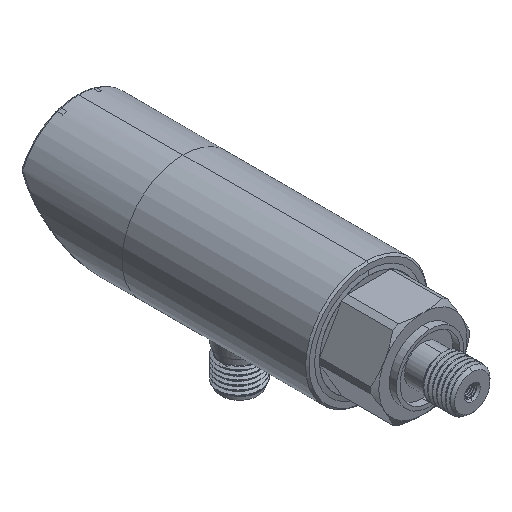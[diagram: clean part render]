
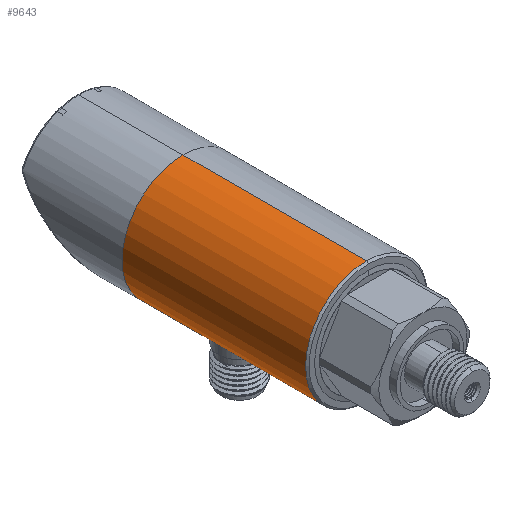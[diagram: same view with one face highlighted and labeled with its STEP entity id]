
A CAD part, isometric view. The second image highlights one B-rep face of the part: STEP entity #9643.
In plain terms, the highlighted cylindrical face has radius 17.25 mm (diameter 34.5 mm), a partial arc.
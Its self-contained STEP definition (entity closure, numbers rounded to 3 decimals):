
#7 = CARTESIAN_POINT ( 'NONE',  ( -6., 36., -16.173 ) ) ;
#118 = DIRECTION ( 'NONE',  ( 0., 1., 0. ) ) ;
#190 = EDGE_CURVE ( 'NONE', #5930, #13009, #546, .T. ) ;
#220 = LINE ( 'NONE', #4304, #578 ) ;
#546 = CIRCLE ( 'NONE', #8232, 17.25 ) ;
#578 = VECTOR ( 'NONE', #12077, 1000. ) ;
#661 = EDGE_CURVE ( 'NONE', #6464, #6730, #5373, .T. ) ;
#760 = CARTESIAN_POINT ( 'NONE',  ( -4.52, 39.965, -16.65 ) ) ;
#834 = CARTESIAN_POINT ( 'NONE',  ( -3.965, 40.508, -16.789 ) ) ;
#913 = CARTESIAN_POINT ( 'NONE',  ( -3.504, 40.875, -16.891 ) ) ;
#926 = ORIENTED_EDGE ( 'NONE', *, *, #3051, .T. ) ;
#983 = EDGE_CURVE ( 'NONE', #11012, #5950, #13439, .T. ) ;
#999 = CARTESIAN_POINT ( 'NONE',  ( -5.2, 32.982, -16.449 ) ) ;
#1287 = CARTESIAN_POINT ( 'NONE',  ( -6., 36., -16.173 ) ) ;
#1442 = CARTESIAN_POINT ( 'NONE',  ( 0., 42., -17.25 ) ) ;
#1482 = ORIENTED_EDGE ( 'NONE', *, *, #661, .T. ) ;
#1697 = EDGE_CURVE ( 'NONE', #6730, #11939, #7635, .T. ) ;
#1827 = CARTESIAN_POINT ( 'NONE',  ( -0.4, 42., -17.25 ) ) ;
#1965 = CARTESIAN_POINT ( 'NONE',  ( 0., 42., -17.25 ) ) ;
#2002 = DIRECTION ( 'NONE',  ( 0., 0., -1. ) ) ;
#2198 = CARTESIAN_POINT ( 'NONE',  ( -4.759, 32.341, -16.581 ) ) ;
#2953 = CARTESIAN_POINT ( 'NONE',  ( -6., 36., -16.173 ) ) ;
#3051 = EDGE_CURVE ( 'NONE', #5950, #6464, #10859, .T. ) ;
#3208 = DIRECTION ( 'NONE',  ( 0., -1., 0. ) ) ;
#3257 = CARTESIAN_POINT ( 'NONE',  ( -0.197, 30., -17.25 ) ) ;
#3300 = CARTESIAN_POINT ( 'NONE',  ( 0., 52., 0. ) ) ;
#3309 = LINE ( 'NONE', #8686, #6066 ) ;
#3327 = CARTESIAN_POINT ( 'NONE',  ( -3.664, 31.233, -16.86 ) ) ;
#3749 = CARTESIAN_POINT ( 'NONE',  ( 0., 52., -17.25 ) ) ;
#3925 = CARTESIAN_POINT ( 'NONE',  ( -5.796, 37.563, -16.247 ) ) ;
#3928 = CARTESIAN_POINT ( 'NONE',  ( 0., 0., 17.25 ) ) ;
#3997 = CARTESIAN_POINT ( 'NONE',  ( -1.941, 41.681, -17.141 ) ) ;
#4294 = CARTESIAN_POINT ( 'NONE',  ( -5.96, 35.204, -16.188 ) ) ;
#4304 = CARTESIAN_POINT ( 'NONE',  ( 0., 52., 17.25 ) ) ;
#4437 = CARTESIAN_POINT ( 'NONE',  ( -2.665, 30.61, -17.047 ) ) ;
#5057 = CARTESIAN_POINT ( 'NONE',  ( -5.615, 38.125, -16.311 ) ) ;
#5080 = AXIS2_PLACEMENT_3D ( 'NONE', #6519, #3208, #2002 ) ;
#5131 = CARTESIAN_POINT ( 'NONE',  ( -5.206, 39.009, -16.447 ) ) ;
#5203 = CARTESIAN_POINT ( 'NONE',  ( -3.662, 40.757, -16.857 ) ) ;
#5289 = CARTESIAN_POINT ( 'NONE',  ( -1.943, 30.31, -17.144 ) ) ;
#5373 = LINE ( 'NONE', #9740, #9071 ) ;
#5508 = DIRECTION ( 'NONE',  ( 0., -1., 0. ) ) ;
#5580 = ORIENTED_EDGE ( 'NONE', *, *, #12956, .T. ) ;
#5930 = VERTEX_POINT ( 'NONE', #3749 ) ;
#5950 = VERTEX_POINT ( 'NONE', #1287 ) ;
#6066 = VECTOR ( 'NONE', #12578, 1000. ) ;
#6183 = EDGE_LOOP ( 'NONE', ( #7954, #6825, #5580, #7673, #926, #1482, #12423 ) ) ;
#6283 = CARTESIAN_POINT ( 'NONE',  ( -5.39, 38.665, -16.387 ) ) ;
#6464 = VERTEX_POINT ( 'NONE', #13405 ) ;
#6507 = CARTESIAN_POINT ( 'NONE',  ( 0., 30., -17.25 ) ) ;
#6519 = CARTESIAN_POINT ( 'NONE',  ( 0., 52., 0. ) ) ;
#6571 = CARTESIAN_POINT ( 'NONE',  ( -0.985, 30.078, -17.223 ) ) ;
#6730 = VERTEX_POINT ( 'NONE', #8313 ) ;
#6825 = ORIENTED_EDGE ( 'NONE', *, *, #190, .F. ) ;
#7209 = CARTESIAN_POINT ( 'NONE',  ( -5.845, 37.369, -16.23 ) ) ;
#7444 = CARTESIAN_POINT ( 'NONE',  ( -3.964, 31.479, -16.791 ) ) ;
#7495 = CARTESIAN_POINT ( 'NONE',  ( -0.793, 41.96, -17.236 ) ) ;
#7577 = CARTESIAN_POINT ( 'NONE',  ( -0.394, 30.01, -17.247 ) ) ;
#7635 = CIRCLE ( 'NONE', #8303, 17.25 ) ;
#7653 = CARTESIAN_POINT ( 'NONE',  ( -5.69, 34.057, -16.285 ) ) ;
#7673 = ORIENTED_EDGE ( 'NONE', *, *, #983, .T. ) ;
#7688 = CARTESIAN_POINT ( 'NONE',  ( 0., 0., 0. ) ) ;
#7750 = DIRECTION ( 'NONE',  ( 0., 1., 0. ) ) ;
#7954 = ORIENTED_EDGE ( 'NONE', *, *, #8836, .F. ) ;
#8232 = AXIS2_PLACEMENT_3D ( 'NONE', #3300, #118, #14037 ) ;
#8303 = AXIS2_PLACEMENT_3D ( 'NONE', #7688, #7750, #14030 ) ;
#8313 = CARTESIAN_POINT ( 'NONE',  ( 0., 0., -17.25 ) ) ;
#8340 = CARTESIAN_POINT ( 'NONE',  ( -4.767, 39.664, -16.58 ) ) ;
#8544 = CARTESIAN_POINT ( 'NONE',  ( -1.562, 41.796, -17.18 ) ) ;
#8640 = CARTESIAN_POINT ( 'NONE',  ( -5.805, 34.432, -16.244 ) ) ;
#8686 = CARTESIAN_POINT ( 'NONE',  ( 0., 52., -17.25 ) ) ;
#8703 = CARTESIAN_POINT ( 'NONE',  ( -1.569, 30.195, -17.183 ) ) ;
#8836 = EDGE_CURVE ( 'NONE', #13009, #11939, #220, .T. ) ;
#8852 = CARTESIAN_POINT ( 'NONE',  ( -0.787, 30.049, -17.233 ) ) ;
#9071 = VECTOR ( 'NONE', #5508, 1000. ) ;
#9489 = CARTESIAN_POINT ( 'NONE',  ( -2.673, 41.386, -17.046 ) ) ;
#9643 = ADVANCED_FACE ( 'NONE', ( #9670 ), #11944, .T. ) ;
#9670 = FACE_OUTER_BOUND ( 'NONE', #6183, .T. ) ;
#9740 = CARTESIAN_POINT ( 'NONE',  ( 0., 52., -17.25 ) ) ;
#10480 = CARTESIAN_POINT ( 'NONE',  ( -1.371, 41.845, -17.197 ) ) ;
#10700 = CARTESIAN_POINT ( 'NONE',  ( -4.109, 40.377, -16.754 ) ) ;
#10791 = CARTESIAN_POINT ( 'NONE',  ( -5.386, 33.327, -16.388 ) ) ;
#10850 = CARTESIAN_POINT ( 'NONE',  ( -4.875, 32.497, -16.547 ) ) ;
#10859 = B_SPLINE_CURVE_WITH_KNOTS ( 'NONE', 3,
 ( #7, #13993, #4294, #8640, #7653, #10791, #999, #10850, #2198, #12990, #13134, #7444, #3327, #11933, #4437, #5289, #8703, #6571, #8852, #7577, #3257, #6507 ),
 .UNSPECIFIED., .F., .F.,
 ( 4, 2, 2, 2, 2, 2, 2, 2, 2, 2, 4 ),
 ( 0.009, 0.011, 0.012, 0.013, 0.014, 0.014, 0.015, 0.017, 0.018, 0.018, 0.019 ),
 .UNSPECIFIED. ) ;
#11012 = VERTEX_POINT ( 'NONE', #1442 ) ;
#11835 = CARTESIAN_POINT ( 'NONE',  ( 0., 52., 17.25 ) ) ;
#11933 = CARTESIAN_POINT ( 'NONE',  ( -3.016, 30.799, -16.987 ) ) ;
#11939 = VERTEX_POINT ( 'NONE', #3928 ) ;
#11944 = CYLINDRICAL_SURFACE ( 'NONE', #5080, 17.25 ) ;
#12077 = DIRECTION ( 'NONE',  ( 0., -1., 0. ) ) ;
#12423 = ORIENTED_EDGE ( 'NONE', *, *, #1697, .T. ) ;
#12578 = DIRECTION ( 'NONE',  ( 0., -1., 0. ) ) ;
#12631 = CARTESIAN_POINT ( 'NONE',  ( -3.016, 41.201, -16.987 ) ) ;
#12700 = CARTESIAN_POINT ( 'NONE',  ( -6., 36.395, -16.173 ) ) ;
#12763 = CARTESIAN_POINT ( 'NONE',  ( -2.128, 41.613, -17.119 ) ) ;
#12956 = EDGE_CURVE ( 'NONE', #5930, #11012, #3309, .T. ) ;
#12990 = CARTESIAN_POINT ( 'NONE',  ( -4.51, 32.038, -16.65 ) ) ;
#13009 = VERTEX_POINT ( 'NONE', #11835 ) ;
#13134 = CARTESIAN_POINT ( 'NONE',  ( -4.378, 31.892, -16.686 ) ) ;
#13405 = CARTESIAN_POINT ( 'NONE',  ( 0., 30., -17.25 ) ) ;
#13439 = B_SPLINE_CURVE_WITH_KNOTS ( 'NONE', 3,
 ( #1965, #1827, #7495, #10480, #8544, #3997, #12763, #9489, #12631, #913, #5203, #834, #10700, #760, #8340, #5131, #6283, #5057, #13760, #3925, #7209, #13833, #12700, #2953 ),
 .UNSPECIFIED., .F., .F.,
 ( 4, 2, 2, 2, 2, 2, 2, 2, 2, 2, 2, 4 ),
 ( 0., 0.001, 0.002, 0.002, 0.004, 0.004, 0.005, 0.006, 0.007, 0.008, 0.008, 0.009 ),
 .UNSPECIFIED. ) ;
#13760 = CARTESIAN_POINT ( 'NONE',  ( -5.681, 37.94, -16.288 ) ) ;
#13833 = CARTESIAN_POINT ( 'NONE',  ( -5.961, 36.787, -16.187 ) ) ;
#13993 = CARTESIAN_POINT ( 'NONE',  ( -6., 35.605, -16.173 ) ) ;
#14030 = DIRECTION ( 'NONE',  ( 0., 0., 1. ) ) ;
#14037 = DIRECTION ( 'NONE',  ( 0., 0., 1. ) ) ;
